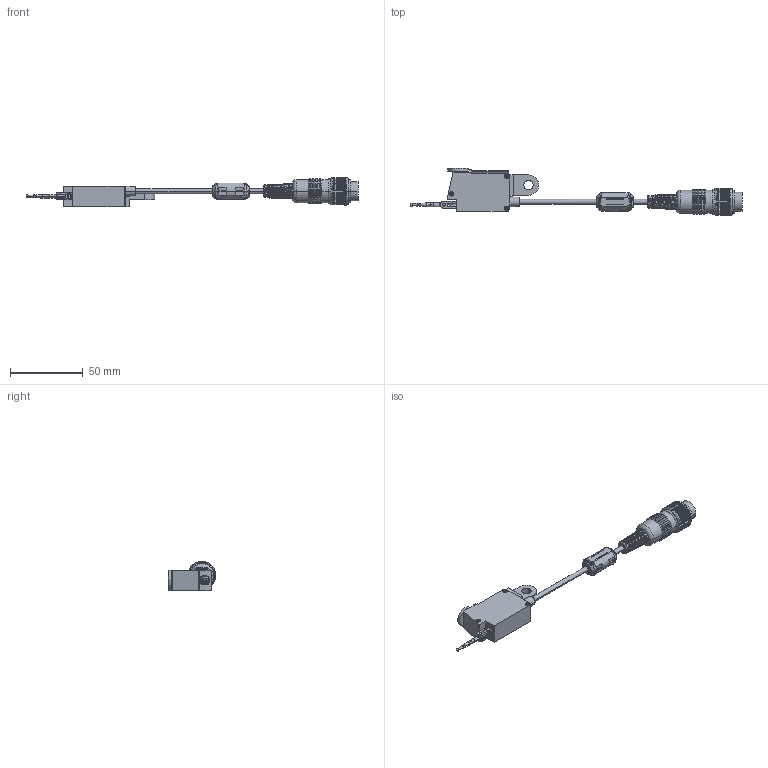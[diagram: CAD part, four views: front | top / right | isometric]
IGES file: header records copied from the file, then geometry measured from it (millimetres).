
Start section: Elysium IGES Interface
Global section: file name: 62HX:\users\kw_rdg\niwanoa\sagyou\01_製品データ\06_EM\519-326.igs; native system: Creo Elements/Direct Modeling 18.1C  24-Feb-2013; preprocessor: Creo Element/Direct IGES_3D V2.2; author: Unknown; organization: Unknown; date: 20170821.184333; units: millimetre
Bounding box: 228.6 x 32.5 x 20 mm (x, y, z)
Volume: 31250.6 mm3; surface area: 13867.5 mm2
Topology: 1 solids, 1 shells, 2024 faces, 5334 edges, 3415 vertices
Faces by surface type: bspline 2024
